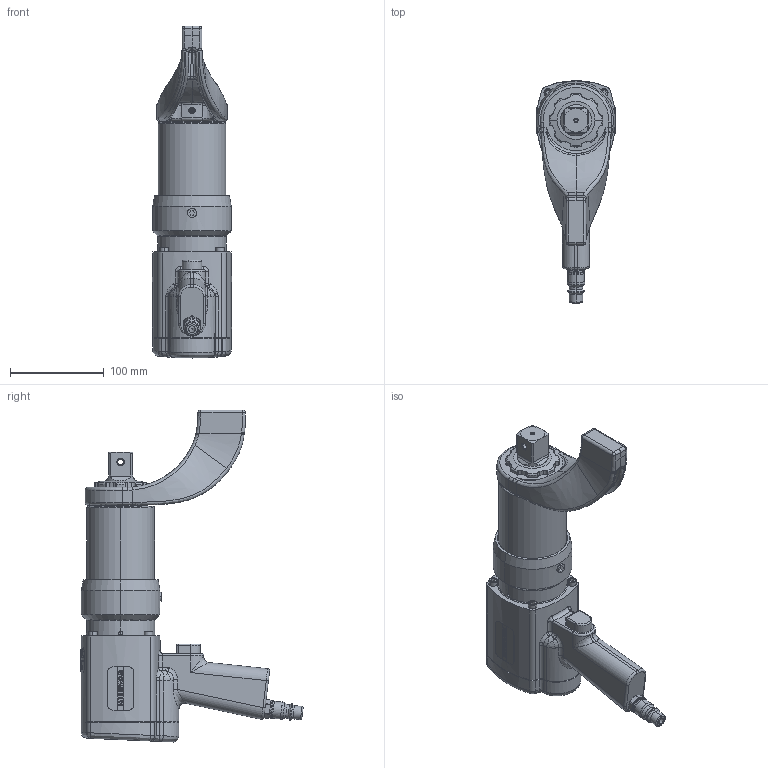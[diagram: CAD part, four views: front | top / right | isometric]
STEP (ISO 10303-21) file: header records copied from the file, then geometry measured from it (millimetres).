
FILE_DESCRIPTION((''),'2;1');
FILE_NAME('PTW1000C','2016-03-03T',('mike.ward'),(''),'CREO PARAMETRIC BY PTC INC, 2015290','CREO PARAMETRIC BY PTC INC, 2015290','');
FILE_SCHEMA(('CONFIG_CONTROL_DESIGN'));
Length unit declared in the file: inch
Products named in the file (1): PTW1000C
Bounding box: 84.5 x 237.41 x 354.68 mm (x, y, z)
Volume: 1694312.6 mm3; surface area: 214531 mm2
Topology: 3 solids, 5 shells, 7522 faces, 21157 edges, 13960 vertices
Faces by surface type: plane 2677, bspline 2417, cylinder 1639, extrusion 566, torus 117, cone 88, sphere 18
Entity records: 326195 total; most frequent: CARTESIAN_POINT 140266, ORIENTED_EDGE 42254, DIRECTION 32528, EDGE_CURVE 21127, VECTOR 14388, VERTEX_POINT 13960, LINE 13822, AXIS2_PLACEMENT_3D 9070
